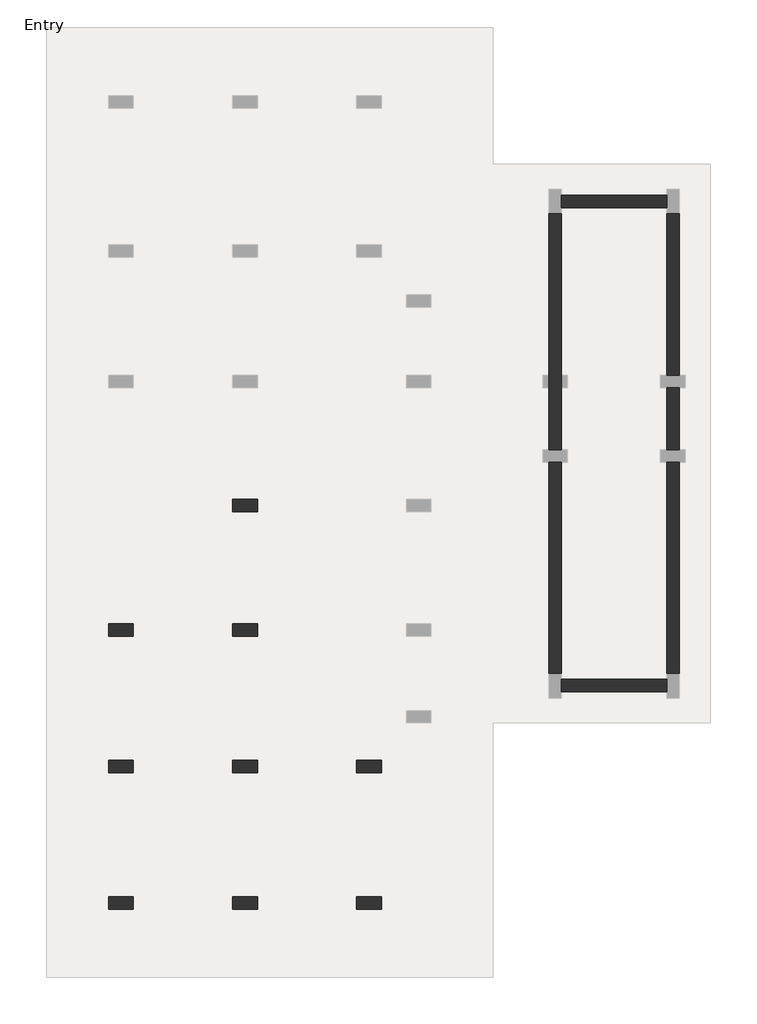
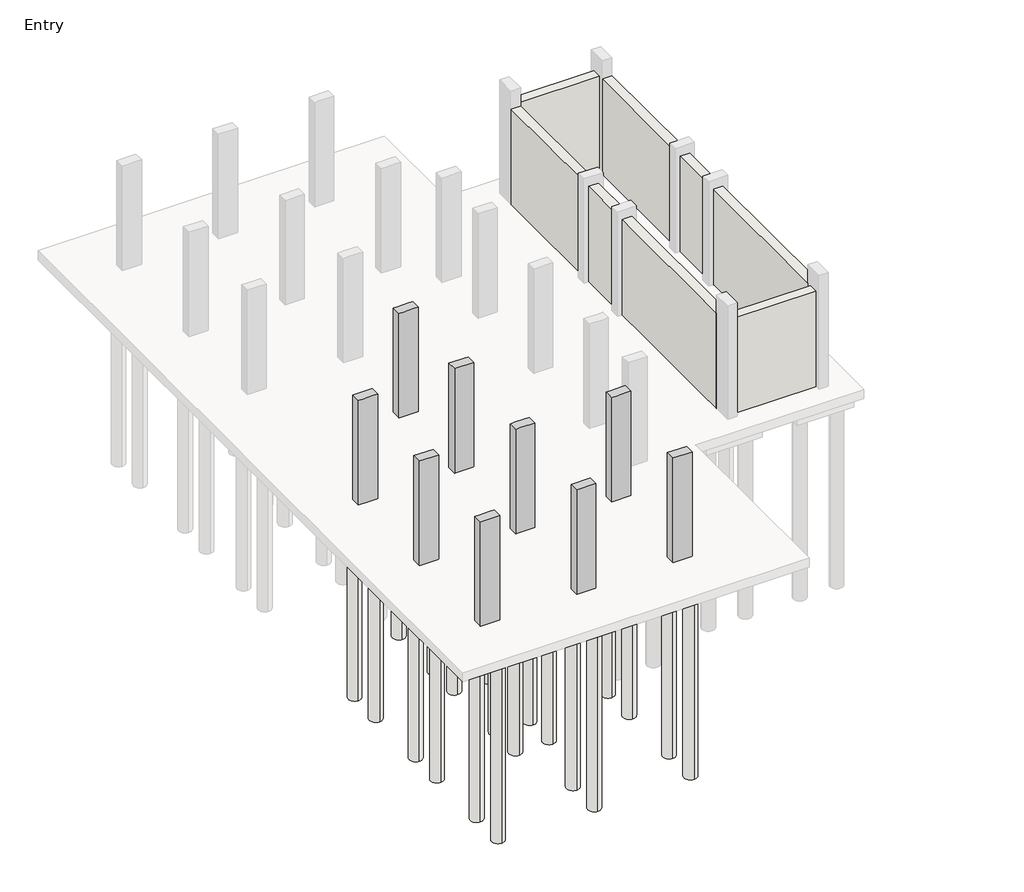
# One storey, part 1 of 3: 30 slabs, 9 columns, 7 walls.
"""IFC4 building model written with IfcOpenShell, lengths in millimetres."""

from ifc_helpers import new_model, si_unit, point, frame, frame_2d, origin, origin_with_axes, place, context, project, spatial, polyline, circle_curve, trimmed, segment, composite_curve, outline, extrude, faceted_brep, element, save

model = new_model("IFC4")

# Units and contexts
model_context = context("Model", 3, world=origin())
ifc_project = project(units=[si_unit("LENGTHUNIT", "METRE", prefix="MILLI")], contexts=[model_context])

# Site, building, storey
site = spatial("IfcSite", under=ifc_project)
building = spatial("IfcBuilding", under=site)
storey = spatial("IfcBuildingStorey", under=building, Name="Entry", Elevation=0.0)

# Columns
placement = place(None, origin())
element("IfcColumn", 1, ObjectType="Concrete-Rectangular-Column : 12 x 24", at=placement, inside=storey, context=model_context, shape_type="Brep", body=[
    faceted_brep([(-10423.1073204, 13863.0572372, 0.0), (-9813.5073204, 13863.0572372, 0.0), (-9813.5073204, 13558.2572372, 0.0), (-10423.1073204, 13558.2572372, 0.0), (-10423.1073204, 13863.0572372, 3505.2), (-10270.7073204, 13863.0572372, 3505.2), (-9965.9073204, 13863.0572372, 3505.2), (-9813.5073204, 13863.0572372, 3505.2), (-9813.5073204, 13863.0572372, 2895.6), (-9813.5073204, 13558.2572372, 3505.2), (-9813.5073204, 13558.2572372, 2895.6), (-9965.9073204, 13558.2572372, 3505.2), (-10270.7073204, 13558.2572372, 3505.2), (-10423.1073204, 13558.2572372, 3505.2)], [[[0, 1, 2, 3]], [[4, 5, 6, 7, 8, 1, 0]], [[7, 9, 10, 2, 1, 8]], [[9, 11, 12, 13, 3, 2, 10]], [[13, 4, 0, 3]], [[4, 13, 12, 11, 9, 7, 6, 5]]]),
])
element("IfcColumn", 2, ObjectType="Concrete-Rectangular-Column : 12 x 24", at=placement, inside=storey, context=model_context, shape_type="Brep", body=[
    faceted_brep([(-13471.1073204, 10815.0572372, 0.0), (-12861.5073204, 10815.0572372, 0.0), (-12861.5073204, 10510.2572372, 0.0), (-13471.1073204, 10510.2572372, 0.0), (-13471.1073204, 10815.0572372, 3505.2), (-12861.5073204, 10815.0572372, 3505.2), (-12861.5073204, 10815.0572372, 2895.6), (-12861.5073204, 10510.2572372, 3505.2), (-12861.5073204, 10510.2572372, 2895.6), (-13013.9073204, 10510.2572372, 3505.2), (-13318.7073204, 10510.2572372, 3505.2), (-13471.1073204, 10510.2572372, 3505.2)], [[[0, 1, 2, 3]], [[4, 5, 6, 1, 0]], [[5, 7, 8, 2, 1, 6]], [[7, 9, 10, 11, 3, 2, 8]], [[11, 4, 0, 3]], [[4, 11, 10, 9, 7, 5]]]),
])
element("IfcColumn", 3, ObjectType="Concrete-Rectangular-Column : 12 x 24", at=placement, inside=storey, context=model_context, shape_type="Brep", body=[
    faceted_brep([(-10423.1073204, 10815.0572372, 0.0), (-9813.5073204, 10815.0572372, 0.0), (-9813.5073204, 10510.2572372, 0.0), (-10423.1073204, 10510.2572372, 0.0), (-10423.1073204, 10815.0572372, 3505.2), (-10270.7073204, 10815.0572372, 3505.2), (-9965.9073204, 10815.0572372, 3505.2), (-9813.5073204, 10815.0572372, 3505.2), (-9813.5073204, 10815.0572372, 2895.6), (-10423.1073204, 10815.0572372, 2895.6), (-9813.5073204, 10510.2572372, 3505.2), (-9813.5073204, 10510.2572372, 2895.6), (-9965.9073204, 10510.2572372, 3505.2), (-10270.7073204, 10510.2572372, 3505.2), (-10423.1073204, 10510.2572372, 3505.2), (-10423.1073204, 10510.2572372, 2895.6)], [[[0, 1, 2, 3]], [[4, 5, 6, 7, 8, 1, 0, 9]], [[7, 10, 11, 2, 1, 8]], [[10, 12, 13, 14, 15, 3, 2, 11]], [[14, 4, 9, 0, 3, 15]], [[4, 14, 13, 12, 10, 7, 6, 5]]]),
])
element("IfcColumn", 4, ObjectType="Concrete-Rectangular-Column : 12 x 24", at=placement, inside=storey, context=model_context, shape_type="Brep", body=[
    faceted_brep([(-7375.8500241, 7462.2572372, 0.0), (-6766.2500241, 7462.2572372, 0.0), (-6766.2500241, 7157.4572372, 0.0), (-7375.8500241, 7157.4572372, 0.0), (-7375.8500241, 7462.2572372, 3505.2), (-7223.4500241, 7462.2572372, 3505.2), (-6918.6500241, 7462.2572372, 3505.2), (-6766.2500241, 7462.2572372, 3505.2), (-7375.8500241, 7462.2572372, 2895.6), (-6766.2500241, 7157.4572372, 3505.2), (-6918.6500241, 7157.4572372, 3505.2), (-7223.4500241, 7157.4572372, 3505.2), (-7375.8500241, 7157.4572372, 3505.2), (-7375.8500241, 7157.4572372, 2895.6)], [[[0, 1, 2, 3]], [[4, 5, 6, 7, 1, 0, 8]], [[7, 9, 2, 1]], [[9, 10, 11, 12, 13, 3, 2]], [[12, 4, 8, 0, 3, 13]], [[4, 12, 11, 10, 9, 7, 6, 5]]]),
])
element("IfcColumn", 5, ObjectType="Concrete-Rectangular-Column : 12 x 24", at=placement, inside=storey, context=model_context, shape_type="Brep", body=[
    faceted_brep([(-10423.1073204, 7462.2572372, 0.0), (-9813.5073204, 7462.2572372, 0.0), (-9813.5073204, 7157.4572372, 0.0), (-10423.1073204, 7157.4572372, 0.0), (-10423.1073204, 7462.2572372, 3505.2), (-10270.7073204, 7462.2572372, 3505.2), (-9965.9073204, 7462.2572372, 3505.2), (-9813.5073204, 7462.2572372, 3505.2), (-9813.5073204, 7462.2572372, 2895.6), (-10423.1073204, 7462.2572372, 2895.6), (-9813.5073204, 7157.4572372, 3505.2), (-9813.5073204, 7157.4572372, 2895.6), (-9965.9073204, 7157.4572372, 3505.2), (-10270.7073204, 7157.4572372, 3505.2), (-10423.1073204, 7157.4572372, 3505.2), (-10423.1073204, 7157.4572372, 2895.6)], [[[0, 1, 2, 3]], [[4, 5, 6, 7, 8, 1, 0, 9]], [[7, 10, 11, 2, 1, 8]], [[10, 12, 13, 14, 15, 3, 2, 11]], [[14, 4, 9, 0, 3, 15]], [[4, 14, 13, 12, 10, 7, 6, 5]]]),
])
element("IfcColumn", 6, ObjectType="Concrete-Rectangular-Column : 12 x 24", at=placement, inside=storey, context=model_context, shape_type="Brep", body=[
    faceted_brep([(-13471.1073204, 7462.2572372, 0.0), (-12861.5073204, 7462.2572372, 0.0), (-12861.5073204, 7157.4572372, 0.0), (-13471.1073204, 7157.4572372, 0.0), (-13471.1073204, 7462.2572372, 3505.2), (-13318.7073204, 7462.2572372, 3505.2), (-13013.9073204, 7462.2572372, 3505.2), (-12861.5073204, 7462.2572372, 3505.2), (-12861.5073204, 7462.2572372, 2895.6), (-12861.5073204, 7157.4572372, 3505.2), (-12861.5073204, 7157.4572372, 2895.6), (-13013.9073204, 7157.4572372, 3505.2), (-13318.7073204, 7157.4572372, 3505.2), (-13471.1073204, 7157.4572372, 3505.2)], [[[0, 1, 2, 3]], [[4, 5, 6, 7, 8, 1, 0]], [[7, 9, 10, 2, 1, 8]], [[9, 11, 12, 13, 3, 2, 10]], [[13, 4, 0, 3]], [[4, 13, 12, 11, 9, 7, 6, 5]]]),
])
element("IfcColumn", 7, ObjectType="Concrete-Rectangular-Column : 12 x 24", at=placement, inside=storey, context=model_context, shape_type="Brep", body=[
    faceted_brep([(-13471.1073204, 4109.4572372, 0.0), (-12861.5073204, 4109.4572372, 0.0), (-12861.5073204, 3804.6572372, 0.0), (-13471.1073204, 3804.6572372, 0.0), (-13471.1073204, 4109.4572372, 3505.2), (-13318.7073204, 4109.4572372, 3505.2), (-13013.9073204, 4109.4572372, 3505.2), (-12861.5073204, 4109.4572372, 3505.2), (-12861.5073204, 4109.4572372, 2895.6), (-12861.5073204, 3804.6572372, 3505.2), (-12861.5073204, 3804.6572372, 2895.6), (-13471.1073204, 3804.6572372, 3505.2)], [[[0, 1, 2, 3]], [[4, 5, 6, 7, 8, 1, 0]], [[7, 9, 10, 2, 1, 8]], [[9, 11, 3, 2, 10]], [[11, 4, 0, 3]], [[4, 11, 9, 7, 6, 5]]]),
])
element("IfcColumn", 8, ObjectType="Concrete-Rectangular-Column : 12 x 24", at=placement, inside=storey, context=model_context, shape_type="Brep", body=[
    faceted_brep([(-10423.1073204, 4109.4572372, 0.0), (-9813.5073204, 4109.4572372, 0.0), (-9813.5073204, 3804.6572372, 0.0), (-10423.1073204, 3804.6572372, 0.0), (-10423.1073204, 4109.4572372, 3505.2), (-10270.7073204, 4109.4572372, 3505.2), (-9965.9073204, 4109.4572372, 3505.2), (-9813.5073204, 4109.4572372, 3505.2), (-9813.5073204, 4109.4572372, 2895.6), (-10423.1073204, 4109.4572372, 2895.6), (-9813.5073204, 3804.6572372, 3505.2), (-9813.5073204, 3804.6572372, 2895.6), (-10423.1073204, 3804.6572372, 3505.2), (-10423.1073204, 3804.6572372, 2895.6)], [[[0, 1, 2, 3]], [[4, 5, 6, 7, 8, 1, 0, 9]], [[7, 10, 11, 2, 1, 8]], [[10, 12, 13, 3, 2, 11]], [[12, 4, 9, 0, 3, 13]], [[4, 12, 10, 7, 6, 5]]]),
])
element("IfcColumn", 9, ObjectType="Concrete-Rectangular-Column : 12 x 24", at=placement, inside=storey, context=model_context, shape_type="Brep", body=[
    faceted_brep([(-7375.1073204, 4109.4572372, 0.0), (-6765.5073204, 4109.4572372, 0.0), (-6765.5073204, 3804.6572372, 0.0), (-7375.1073204, 3804.6572372, 0.0), (-7375.1073204, 4109.4572372, 3505.2), (-7223.4500241, 4109.4572372, 3505.2), (-6918.6500241, 4109.4572372, 3505.2), (-6765.5073204, 4109.4572372, 3505.2), (-7375.1073204, 4109.4572372, 2895.6), (-6765.5073204, 3804.6572372, 3505.2), (-7375.1073204, 3804.6572372, 3505.2), (-7375.1073204, 3804.6572372, 2895.6)], [[[0, 1, 2, 3]], [[4, 5, 6, 7, 1, 0, 8]], [[7, 9, 2, 1]], [[9, 10, 11, 3, 2]], [[10, 4, 8, 0, 3, 11]], [[4, 10, 9, 7, 6, 5]]]),
])

# Slabs
element("IfcSlab", 10, ObjectType="Pile Cap-2 Pile : 31\"x61\"x35\"", at=placement, inside=storey, context=model_context, shape_type="SweptSolid", body=[
    extrude(outline(polyline([(-13572.7073204, 11551.6572372), (-12759.9073204, 11551.6572372), (-12759.9073204, 9773.6572372), (-13572.7073204, 9773.6572372), (-13572.7073204, 11551.6572372)])), frame((0.0, 0.0, -889.0), z_axis=(0.0, 0.0, 1.0), x_axis=(1.0, 0.0, 0.0)), (0.0, 0.0, 1.0), 584.2),
])
element("IfcSlab", 11, ObjectType="Pile Cap-2 Pile : 31\"x61\"x35\"", at=placement, inside=storey, context=model_context, shape_type="SweptSolid", body=[
    extrude(outline(polyline([(-13572.7073204, 8198.8572372), (-12759.9073204, 8198.8572372), (-12759.9073204, 6420.8572372), (-13572.7073204, 6420.8572372), (-13572.7073204, 8198.8572372)])), frame((0.0, 0.0, -889.0), z_axis=(0.0, 0.0, 1.0), x_axis=(1.0, 0.0, 0.0)), (0.0, 0.0, 1.0), 584.2),
])
element("IfcSlab", 12, ObjectType="Pile Cap-2 Pile : 31\"x61\"x35\"", at=placement, inside=storey, context=model_context, shape_type="SweptSolid", body=[
    extrude(outline(polyline([(-13572.7073204, 4846.0572372), (-12759.9073204, 4846.0572372), (-12759.9073204, 3068.0572372), (-13572.7073204, 3068.0572372), (-13572.7073204, 4846.0572372)])), frame((0.0, 0.0, -889.0), z_axis=(0.0, 0.0, 1.0), x_axis=(1.0, 0.0, 0.0)), (0.0, 0.0, 1.0), 584.2),
])
element("IfcSlab", 13, ObjectType="Pile Cap-2 Pile : 31\"x61\"x35\"", at=placement, inside=storey, context=model_context, shape_type="SweptSolid", body=[
    extrude(outline(polyline([(-10524.7073204, 4846.0572372), (-9711.9073204, 4846.0572372), (-9711.9073204, 3068.0572372), (-10524.7073204, 3068.0572372), (-10524.7073204, 4846.0572372)])), frame((0.0, 0.0, -889.0), z_axis=(0.0, 0.0, 1.0), x_axis=(1.0, 0.0, 0.0)), (0.0, 0.0, 1.0), 584.2),
])
element("IfcSlab", 14, ObjectType="Pile Cap-2 Pile : 31\"x61\"x35\"", at=placement, inside=storey, context=model_context, shape_type="SweptSolid", body=[
    extrude(outline(polyline([(-7476.7073204, 4846.0572372), (-6663.9073204, 4846.0572372), (-6663.9073204, 3068.0572372), (-7476.7073204, 3068.0572372), (-7476.7073204, 4846.0572372)])), frame((0.0, 0.0, -889.0), z_axis=(0.0, 0.0, 1.0), x_axis=(1.0, 0.0, 0.0)), (0.0, 0.0, 1.0), 584.2),
])
element("IfcSlab", 15, ObjectType="Pile Cap-2 Pile : 31\"x61\"x35\"", at=placement, inside=storey, context=model_context, shape_type="Brep", body=[
    faceted_brep([(-7477.4500241, 8198.8572372, -889.0), (-6740.8500241, 8198.8572372, -889.0), (-6664.6500241, 8198.8572372, -889.0), (-6664.6500241, 8122.6572372, -889.0), (-6664.6500241, 6420.8572372, -889.0), (-7477.4500241, 6420.8572372, -889.0), (-7477.4500241, 6420.8572372, -304.8), (-7477.4500241, 8198.8572372, -304.8), (-6664.6500241, 6420.8572372, -304.8), (-6664.6500241, 8198.8572372, -304.8), (-6664.6500241, 8122.6572372, -304.8), (-6740.8500241, 8198.8572372, -304.8)], [[[0, 1, 2, 3, 4, 5]], [[0, 5, 6, 7]], [[5, 4, 8, 6]], [[4, 3, 2, 9, 10, 8]], [[2, 1, 0, 7, 11, 9]], [[7, 6, 8, 10, 9, 11]]]),
])
element("IfcSlab", 16, ObjectType="Pile Cap-4 Pile : 72\"x72\"x35\"", at=placement, inside=storey, context=model_context, shape_type="SweptSolid", body=[
    extrude(outline(polyline([(-11032.7073204, 14625.0572372), (-9203.9073204, 14625.0572372), (-9203.9073204, 12796.2572372), (-11032.7073204, 12796.2572372), (-11032.7073204, 14625.0572372)])), frame((0.0, 0.0, -889.0), z_axis=(0.0, 0.0, 1.0), x_axis=(1.0, 0.0, 0.0)), (0.0, 0.0, 1.0), 584.2),
])
element("IfcSlab", 17, ObjectType="Pile Cap-4 Pile : 72\"x72\"x35\"", at=placement, inside=storey, context=model_context, shape_type="SweptSolid", body=[
    extrude(outline(polyline([(-11032.7073204, 11577.0572372), (-9203.9073204, 11577.0572372), (-9203.9073204, 9748.2572372), (-11032.7073204, 9748.2572372), (-11032.7073204, 11577.0572372)])), frame((0.0, 0.0, -889.0), z_axis=(0.0, 0.0, 1.0), x_axis=(1.0, 0.0, 0.0)), (0.0, 0.0, 1.0), 584.2),
])
element("IfcSlab", 18, ObjectType="Pile Cap-4 Pile : 72\"x72\"x35\"", at=placement, inside=storey, context=model_context, shape_type="SweptSolid", body=[
    extrude(outline(polyline([(-11032.7073204, 8224.2572372), (-9203.9073204, 8224.2572372), (-9203.9073204, 6395.4572372), (-11032.7073204, 6395.4572372), (-11032.7073204, 8224.2572372)])), frame((0.0, 0.0, -889.0), z_axis=(0.0, 0.0, 1.0), x_axis=(1.0, 0.0, 0.0)), (0.0, 0.0, 1.0), 584.2),
])
element("IfcSlab", 19, ObjectType="Pile-Steel Pipe : 16\" Diameter", at=placement, inside=storey, context=model_context, shape_type="SweptSolid", body=[
    extrude(outline(composite_curve([segment(trimmed(circle_curve(frame_2d((-10651.7073204, 13177.2572372)), 203.2), [point((-10651.7073204, 12974.0572372))], [point((-10651.7073204, 13380.4572372))], False, "CARTESIAN"), True, "CONTINUOUS"), segment(trimmed(circle_curve(frame_2d((-10651.7073204, 13177.2572372)), 203.2), [point((-10651.7073204, 13380.4572372))], [point((-10651.7073204, 12974.0572372))], False, "CARTESIAN"), True, "CONTINUOUS")], self_intersect=False)), frame((0.0, 0.0, -6985.0), z_axis=(0.0, 0.0, 1.0), x_axis=(1.0, 0.0, 0.0)), (0.0, 0.0, 1.0), 6096.0),
])
element("IfcSlab", 20, ObjectType="Pile-Steel Pipe : 16\" Diameter", at=placement, inside=storey, context=model_context, shape_type="SweptSolid", body=[
    extrude(outline(composite_curve([segment(trimmed(circle_curve(frame_2d((-10651.7073204, 10129.2572372)), 203.2), [point((-10651.7073204, 9926.0572372))], [point((-10651.7073204, 10332.4572372))], False, "CARTESIAN"), True, "CONTINUOUS"), segment(trimmed(circle_curve(frame_2d((-10651.7073204, 10129.2572372)), 203.2), [point((-10651.7073204, 10332.4572372))], [point((-10651.7073204, 9926.0572372))], False, "CARTESIAN"), True, "CONTINUOUS")], self_intersect=False)), frame((0.0, 0.0, -6985.0), z_axis=(0.0, 0.0, 1.0), x_axis=(1.0, 0.0, 0.0)), (0.0, 0.0, 1.0), 6096.0),
])
element("IfcSlab", 21, ObjectType="Pile-Steel Pipe : 16\" Diameter", at=placement, inside=storey, context=model_context, shape_type="SweptSolid", body=[
    extrude(outline(composite_curve([segment(trimmed(circle_curve(frame_2d((-9584.9073204, 10129.2572372)), 203.2), [point((-9584.9073204, 9926.0572372))], [point((-9584.9073204, 10332.4572372))], False, "CARTESIAN"), True, "CONTINUOUS"), segment(trimmed(circle_curve(frame_2d((-9584.9073204, 10129.2572372)), 203.2), [point((-9584.9073204, 10332.4572372))], [point((-9584.9073204, 9926.0572372))], False, "CARTESIAN"), True, "CONTINUOUS")], self_intersect=False)), frame((0.0, 0.0, -6985.0), z_axis=(0.0, 0.0, 1.0), x_axis=(1.0, 0.0, 0.0)), (0.0, 0.0, 1.0), 6096.0),
])
element("IfcSlab", 22, ObjectType="Pile-Steel Pipe : 16\" Diameter", at=placement, inside=storey, context=model_context, shape_type="SweptSolid", body=[
    extrude(outline(composite_curve([segment(trimmed(circle_curve(frame_2d((-9584.9073204, 11196.0572372)), 203.2), [point((-9584.9073204, 10992.8572372))], [point((-9584.9073204, 11399.2572372))], False, "CARTESIAN"), True, "CONTINUOUS"), segment(trimmed(circle_curve(frame_2d((-9584.9073204, 11196.0572372)), 203.2), [point((-9584.9073204, 11399.2572372))], [point((-9584.9073204, 10992.8572372))], False, "CARTESIAN"), True, "CONTINUOUS")], self_intersect=False)), frame((0.0, 0.0, -6985.0), z_axis=(0.0, 0.0, 1.0), x_axis=(1.0, 0.0, 0.0)), (0.0, 0.0, 1.0), 6096.0),
])
element("IfcSlab", 23, ObjectType="Pile-Steel Pipe : 16\" Diameter", at=placement, inside=storey, context=model_context, shape_type="SweptSolid", body=[
    extrude(outline(composite_curve([segment(trimmed(circle_curve(frame_2d((-10651.7073204, 11196.0572372)), 203.2), [point((-10651.7073204, 10992.8572372))], [point((-10651.7073204, 11399.2572372))], False, "CARTESIAN"), True, "CONTINUOUS"), segment(trimmed(circle_curve(frame_2d((-10651.7073204, 11196.0572372)), 203.2), [point((-10651.7073204, 11399.2572372))], [point((-10651.7073204, 10992.8572372))], False, "CARTESIAN"), True, "CONTINUOUS")], self_intersect=False)), frame((0.0, 0.0, -6985.0), z_axis=(0.0, 0.0, 1.0), x_axis=(1.0, 0.0, 0.0)), (0.0, 0.0, 1.0), 6096.0),
])
element("IfcSlab", 24, ObjectType="Pile-Steel Pipe : 16\" Diameter", at=placement, inside=storey, context=model_context, shape_type="SweptSolid", body=[
    extrude(outline(composite_curve([segment(trimmed(circle_curve(frame_2d((-10651.7073204, 6776.4572372)), 203.2), [point((-10651.7073204, 6573.2572372))], [point((-10651.7073204, 6979.6572372))], False, "CARTESIAN"), True, "CONTINUOUS"), segment(trimmed(circle_curve(frame_2d((-10651.7073204, 6776.4572372)), 203.2), [point((-10651.7073204, 6979.6572372))], [point((-10651.7073204, 6573.2572372))], False, "CARTESIAN"), True, "CONTINUOUS")], self_intersect=False)), frame((0.0, 0.0, -6985.0), z_axis=(0.0, 0.0, 1.0), x_axis=(1.0, 0.0, 0.0)), (0.0, 0.0, 1.0), 6096.0),
])
element("IfcSlab", 25, ObjectType="Pile-Steel Pipe : 16\" Diameter", at=placement, inside=storey, context=model_context, shape_type="SweptSolid", body=[
    extrude(outline(composite_curve([segment(trimmed(circle_curve(frame_2d((-9584.9073204, 6776.4572372)), 203.2), [point((-9584.9073204, 6573.2572372))], [point((-9584.9073204, 6979.6572372))], False, "CARTESIAN"), True, "CONTINUOUS"), segment(trimmed(circle_curve(frame_2d((-9584.9073204, 6776.4572372)), 203.2), [point((-9584.9073204, 6979.6572372))], [point((-9584.9073204, 6573.2572372))], False, "CARTESIAN"), True, "CONTINUOUS")], self_intersect=False)), frame((0.0, 0.0, -6985.0), z_axis=(0.0, 0.0, 1.0), x_axis=(1.0, 0.0, 0.0)), (0.0, 0.0, 1.0), 6096.0),
])
element("IfcSlab", 26, ObjectType="Pile-Steel Pipe : 16\" Diameter", at=placement, inside=storey, context=model_context, shape_type="SweptSolid", body=[
    extrude(outline(composite_curve([segment(trimmed(circle_curve(frame_2d((-9584.9073204, 7843.2572372)), 203.2), [point((-9584.9073204, 7640.0572372))], [point((-9584.9073204, 8046.4572372))], False, "CARTESIAN"), True, "CONTINUOUS"), segment(trimmed(circle_curve(frame_2d((-9584.9073204, 7843.2572372)), 203.2), [point((-9584.9073204, 8046.4572372))], [point((-9584.9073204, 7640.0572372))], False, "CARTESIAN"), True, "CONTINUOUS")], self_intersect=False)), frame((0.0, 0.0, -6985.0), z_axis=(0.0, 0.0, 1.0), x_axis=(1.0, 0.0, 0.0)), (0.0, 0.0, 1.0), 6096.0),
])
element("IfcSlab", 27, ObjectType="Pile-Steel Pipe : 16\" Diameter", at=placement, inside=storey, context=model_context, shape_type="SweptSolid", body=[
    extrude(outline(composite_curve([segment(trimmed(circle_curve(frame_2d((-10651.7073204, 7843.2572372)), 203.2), [point((-10651.7073204, 7640.0572372))], [point((-10651.7073204, 8046.4572372))], False, "CARTESIAN"), True, "CONTINUOUS"), segment(trimmed(circle_curve(frame_2d((-10651.7073204, 7843.2572372)), 203.2), [point((-10651.7073204, 8046.4572372))], [point((-10651.7073204, 7640.0572372))], False, "CARTESIAN"), True, "CONTINUOUS")], self_intersect=False)), frame((0.0, 0.0, -6985.0), z_axis=(0.0, 0.0, 1.0), x_axis=(1.0, 0.0, 0.0)), (0.0, 0.0, 1.0), 6096.0),
])
element("IfcSlab", 28, ObjectType="Pile-Steel Pipe : 16\" Diameter", at=placement, inside=storey, context=model_context, shape_type="SweptSolid", body=[
    extrude(outline(composite_curve([segment(trimmed(circle_curve(frame_2d((-13166.3073204, 10078.4572372)), 203.2), [point((-13166.3073204, 9875.2572372))], [point((-13166.3073204, 10281.6572372))], False, "CARTESIAN"), True, "CONTINUOUS"), segment(trimmed(circle_curve(frame_2d((-13166.3073204, 10078.4572372)), 203.2), [point((-13166.3073204, 10281.6572372))], [point((-13166.3073204, 9875.2572372))], False, "CARTESIAN"), True, "CONTINUOUS")], self_intersect=False)), frame((0.0, 0.0, -6985.0), z_axis=(0.0, 0.0, 1.0), x_axis=(1.0, 0.0, 0.0)), (0.0, 0.0, 1.0), 6096.0),
])
element("IfcSlab", 29, ObjectType="Pile-Steel Pipe : 16\" Diameter", at=placement, inside=storey, context=model_context, shape_type="SweptSolid", body=[
    extrude(outline(composite_curve([segment(trimmed(circle_curve(frame_2d((-13166.3073204, 11246.8572372)), 203.2), [point((-13166.3073204, 11043.6572372))], [point((-13166.3073204, 11450.0572372))], False, "CARTESIAN"), True, "CONTINUOUS"), segment(trimmed(circle_curve(frame_2d((-13166.3073204, 11246.8572372)), 203.2), [point((-13166.3073204, 11450.0572372))], [point((-13166.3073204, 11043.6572372))], False, "CARTESIAN"), True, "CONTINUOUS")], self_intersect=False)), frame((0.0, 0.0, -6985.0), z_axis=(0.0, 0.0, 1.0), x_axis=(1.0, 0.0, 0.0)), (0.0, 0.0, 1.0), 6096.0),
])
element("IfcSlab", 30, ObjectType="Pile-Steel Pipe : 16\" Diameter", at=placement, inside=storey, context=model_context, shape_type="SweptSolid", body=[
    extrude(outline(composite_curve([segment(trimmed(circle_curve(frame_2d((-13166.3073204, 6725.6572372)), 203.2), [point((-13166.3073204, 6522.4572372))], [point((-13166.3073204, 6928.8572372))], False, "CARTESIAN"), True, "CONTINUOUS"), segment(trimmed(circle_curve(frame_2d((-13166.3073204, 6725.6572372)), 203.2), [point((-13166.3073204, 6928.8572372))], [point((-13166.3073204, 6522.4572372))], False, "CARTESIAN"), True, "CONTINUOUS")], self_intersect=False)), frame((0.0, 0.0, -6985.0), z_axis=(0.0, 0.0, 1.0), x_axis=(1.0, 0.0, 0.0)), (0.0, 0.0, 1.0), 6096.0),
])
element("IfcSlab", 31, ObjectType="Pile-Steel Pipe : 16\" Diameter", at=placement, inside=storey, context=model_context, shape_type="SweptSolid", body=[
    extrude(outline(composite_curve([segment(trimmed(circle_curve(frame_2d((-13166.3073204, 7894.0572372)), 203.2), [point((-13166.3073204, 7690.8572372))], [point((-13166.3073204, 8097.2572372))], False, "CARTESIAN"), True, "CONTINUOUS"), segment(trimmed(circle_curve(frame_2d((-13166.3073204, 7894.0572372)), 203.2), [point((-13166.3073204, 8097.2572372))], [point((-13166.3073204, 7690.8572372))], False, "CARTESIAN"), True, "CONTINUOUS")], self_intersect=False)), frame((0.0, 0.0, -6985.0), z_axis=(0.0, 0.0, 1.0), x_axis=(1.0, 0.0, 0.0)), (0.0, 0.0, 1.0), 6096.0),
])
element("IfcSlab", 32, ObjectType="Pile-Steel Pipe : 16\" Diameter", at=placement, inside=storey, context=model_context, shape_type="SweptSolid", body=[
    extrude(outline(composite_curve([segment(trimmed(circle_curve(frame_2d((-13166.3073204, 3372.8572372)), 203.2), [point((-13166.3073204, 3169.6572372))], [point((-13166.3073204, 3576.0572372))], False, "CARTESIAN"), True, "CONTINUOUS"), segment(trimmed(circle_curve(frame_2d((-13166.3073204, 3372.8572372)), 203.2), [point((-13166.3073204, 3576.0572372))], [point((-13166.3073204, 3169.6572372))], False, "CARTESIAN"), True, "CONTINUOUS")], self_intersect=False)), frame((0.0, 0.0, -6985.0), z_axis=(0.0, 0.0, 1.0), x_axis=(1.0, 0.0, 0.0)), (0.0, 0.0, 1.0), 6096.0),
])
element("IfcSlab", 33, ObjectType="Pile-Steel Pipe : 16\" Diameter", at=placement, inside=storey, context=model_context, shape_type="SweptSolid", body=[
    extrude(outline(composite_curve([segment(trimmed(circle_curve(frame_2d((-13166.3073204, 4541.2572372)), 203.2), [point((-13166.3073204, 4338.0572372))], [point((-13166.3073204, 4744.4572372))], False, "CARTESIAN"), True, "CONTINUOUS"), segment(trimmed(circle_curve(frame_2d((-13166.3073204, 4541.2572372)), 203.2), [point((-13166.3073204, 4744.4572372))], [point((-13166.3073204, 4338.0572372))], False, "CARTESIAN"), True, "CONTINUOUS")], self_intersect=False)), frame((0.0, 0.0, -6985.0), z_axis=(0.0, 0.0, 1.0), x_axis=(1.0, 0.0, 0.0)), (0.0, 0.0, 1.0), 6096.0),
])
element("IfcSlab", 34, ObjectType="Pile-Steel Pipe : 16\" Diameter", at=placement, inside=storey, context=model_context, shape_type="SweptSolid", body=[
    extrude(outline(composite_curve([segment(trimmed(circle_curve(frame_2d((-10118.3073204, 3372.8572372)), 203.2), [point((-10118.3073204, 3169.6572372))], [point((-10118.3073204, 3576.0572372))], False, "CARTESIAN"), True, "CONTINUOUS"), segment(trimmed(circle_curve(frame_2d((-10118.3073204, 3372.8572372)), 203.2), [point((-10118.3073204, 3576.0572372))], [point((-10118.3073204, 3169.6572372))], False, "CARTESIAN"), True, "CONTINUOUS")], self_intersect=False)), frame((0.0, 0.0, -6985.0), z_axis=(0.0, 0.0, 1.0), x_axis=(1.0, 0.0, 0.0)), (0.0, 0.0, 1.0), 6096.0),
])
element("IfcSlab", 35, ObjectType="Pile-Steel Pipe : 16\" Diameter", at=placement, inside=storey, context=model_context, shape_type="SweptSolid", body=[
    extrude(outline(composite_curve([segment(trimmed(circle_curve(frame_2d((-10118.3073204, 4541.2572372)), 203.2), [point((-10118.3073204, 4338.0572372))], [point((-10118.3073204, 4744.4572372))], False, "CARTESIAN"), True, "CONTINUOUS"), segment(trimmed(circle_curve(frame_2d((-10118.3073204, 4541.2572372)), 203.2), [point((-10118.3073204, 4744.4572372))], [point((-10118.3073204, 4338.0572372))], False, "CARTESIAN"), True, "CONTINUOUS")], self_intersect=False)), frame((0.0, 0.0, -6985.0), z_axis=(0.0, 0.0, 1.0), x_axis=(1.0, 0.0, 0.0)), (0.0, 0.0, 1.0), 6096.0),
])
element("IfcSlab", 36, ObjectType="Pile-Steel Pipe : 16\" Diameter", at=placement, inside=storey, context=model_context, shape_type="SweptSolid", body=[
    extrude(outline(composite_curve([segment(trimmed(circle_curve(frame_2d((-7070.3073204, 3372.8572372)), 203.2), [point((-7070.3073204, 3169.6572372))], [point((-7070.3073204, 3576.0572372))], False, "CARTESIAN"), True, "CONTINUOUS"), segment(trimmed(circle_curve(frame_2d((-7070.3073204, 3372.8572372)), 203.2), [point((-7070.3073204, 3576.0572372))], [point((-7070.3073204, 3169.6572372))], False, "CARTESIAN"), True, "CONTINUOUS")], self_intersect=False)), frame((0.0, 0.0, -6985.0), z_axis=(0.0, 0.0, 1.0), x_axis=(1.0, 0.0, 0.0)), (0.0, 0.0, 1.0), 6096.0),
])
element("IfcSlab", 37, ObjectType="Pile-Steel Pipe : 16\" Diameter", at=placement, inside=storey, context=model_context, shape_type="SweptSolid", body=[
    extrude(outline(composite_curve([segment(trimmed(circle_curve(frame_2d((-7070.3073204, 4541.2572372)), 203.2), [point((-7070.3073204, 4338.0572372))], [point((-7070.3073204, 4744.4572372))], False, "CARTESIAN"), True, "CONTINUOUS"), segment(trimmed(circle_curve(frame_2d((-7070.3073204, 4541.2572372)), 203.2), [point((-7070.3073204, 4744.4572372))], [point((-7070.3073204, 4338.0572372))], False, "CARTESIAN"), True, "CONTINUOUS")], self_intersect=False)), frame((0.0, 0.0, -6985.0), z_axis=(0.0, 0.0, 1.0), x_axis=(1.0, 0.0, 0.0)), (0.0, 0.0, 1.0), 6096.0),
])
element("IfcSlab", 38, ObjectType="Pile-Steel Pipe : 16\" Diameter", at=placement, inside=storey, context=model_context, shape_type="SweptSolid", body=[
    extrude(outline(composite_curve([segment(trimmed(circle_curve(frame_2d((-7071.0500241, 6725.6572372)), 203.2), [point((-7071.0500241, 6522.4572372))], [point((-7071.0500241, 6928.8572372))], False, "CARTESIAN"), True, "CONTINUOUS"), segment(trimmed(circle_curve(frame_2d((-7071.0500241, 6725.6572372)), 203.2), [point((-7071.0500241, 6928.8572372))], [point((-7071.0500241, 6522.4572372))], False, "CARTESIAN"), True, "CONTINUOUS")], self_intersect=False)), frame((0.0, 0.0, -6985.0), z_axis=(0.0, 0.0, 1.0), x_axis=(1.0, 0.0, 0.0)), (0.0, 0.0, 1.0), 6096.0),
])
element("IfcSlab", 39, ObjectType="Pile-Steel Pipe : 16\" Diameter", at=placement, inside=storey, context=model_context, shape_type="SweptSolid", body=[
    extrude(outline(composite_curve([segment(trimmed(circle_curve(frame_2d((-7071.0500241, 7894.0572372)), 203.2), [point((-7071.0500241, 7690.8572372))], [point((-7071.0500241, 8097.2572372))], False, "CARTESIAN"), True, "CONTINUOUS"), segment(trimmed(circle_curve(frame_2d((-7071.0500241, 7894.0572372)), 203.2), [point((-7071.0500241, 8097.2572372))], [point((-7071.0500241, 7690.8572372))], False, "CARTESIAN"), True, "CONTINUOUS")], self_intersect=False)), frame((0.0, 0.0, -6985.0), z_axis=(0.0, 0.0, 1.0), x_axis=(1.0, 0.0, 0.0)), (0.0, 0.0, 1.0), 6096.0),
])

# Walls
element("IfcWall", 40, ObjectType="Core-Shaft - 12\" Concrete", at=placement, inside=storey, context=model_context, shape_type="SweptSolid", body=[
    extrude(outline(polyline([(242.3860546, 21025.8572372), (-2346.6500241, 21025.8572372), (-2346.6500241, 21330.6572372), (242.3860546, 21330.6572372), (242.3860546, 21025.8572372)])), origin_with_axes(), (0.0, 0.0, 1.0), 3200.4),
])
element("IfcWall", 41, ObjectType="Core-Shaft - 12\" Concrete", at=placement, inside=storey, context=model_context, shape_type="SweptSolid", body=[
    extrude(outline(polyline([(242.3860546, 16911.0572372), (242.3860546, 20873.4572372), (547.1860546, 20873.4572372), (547.1860546, 16911.0572372), (242.3860546, 16911.0572372)])), origin_with_axes(), (0.0, 0.0, 1.0), 3200.4),
])
element("IfcWall", 42, ObjectType="Core-Shaft - 12\" Concrete", at=placement, inside=storey, context=model_context, shape_type="SweptSolid", body=[
    extrude(outline(polyline([(242.3860546, 15082.2572372), (242.3860546, 16606.2572372), (547.1860546, 16606.2572372), (547.1860546, 15082.2572372), (242.3860546, 15082.2572372)])), origin_with_axes(), (0.0, 0.0, 1.0), 3200.4),
])
element("IfcWall", 43, ObjectType="Core-Shaft - 12\" Concrete", at=placement, inside=storey, context=model_context, shape_type="SweptSolid", body=[
    extrude(outline(polyline([(242.3860546, 9595.8572372), (242.3860546, 14777.4572372), (547.1860546, 14777.4572372), (547.1860546, 9595.8572372), (242.3860546, 9595.8572372)])), origin_with_axes(), (0.0, 0.0, 1.0), 3200.4),
])
element("IfcWall", 44, ObjectType="Core-Shaft - 12\" Concrete", at=placement, inside=storey, context=model_context, shape_type="SweptSolid", body=[
    extrude(outline(polyline([(-2346.6500241, 9443.4572372), (242.3860546, 9443.4572372), (242.3860546, 9138.6572372), (-2346.6500241, 9138.6572372), (-2346.6500241, 9443.4572372)])), origin_with_axes(), (0.0, 0.0, 1.0), 3200.4),
])
element("IfcWall", 45, ObjectType="Core-Shaft - 12\" Concrete", at=placement, inside=storey, context=model_context, shape_type="SweptSolid", body=[
    extrude(outline(polyline([(-2346.6500241, 14777.4572372), (-2346.6500241, 9595.8572372), (-2651.4500241, 9595.8572372), (-2651.4500241, 14777.4572372), (-2346.6500241, 14777.4572372)])), origin_with_axes(), (0.0, 0.0, 1.0), 3200.4),
])
element("IfcWall", 46, ObjectType="Core-Shaft - 12\" Concrete", at=placement, inside=storey, context=model_context, shape_type="Brep", body=[
    faceted_brep([(-2346.6500241, 15082.2572372, 0.0), (-2346.6500241, 16606.2572372, 0.0), (-2346.6500241, 16911.0572372, 0.0), (-2346.6500241, 20873.4572372, 0.0), (-2346.6500241, 20873.4572372, 3200.4), (-2346.6500241, 16911.0572372, 3200.4), (-2346.6500241, 16606.2572372, 3200.4), (-2346.6500241, 15082.2572372, 3200.4), (-2651.4500241, 15082.2572372, 0.0), (-2651.4500241, 15082.2572372, 3200.4), (-2651.4500241, 16606.2572372, 3200.4), (-2651.4500241, 16911.0572372, 3200.4), (-2651.4500241, 20873.4572372, 3200.4), (-2651.4500241, 20873.4572372, 0.0), (-2651.4500241, 16911.0572372, 0.0), (-2651.4500241, 16606.2572372, 0.0)], [[[0, 1, 2, 3, 4, 5, 6, 7]], [[8, 9, 10, 11, 12, 13, 14, 15]], [[3, 2, 1, 0, 8, 15, 14, 13]], [[4, 3, 13, 12]], [[7, 6, 5, 4, 12, 11, 10, 9]], [[0, 7, 9, 8]]]),
])

save(model, "model.ifc")
